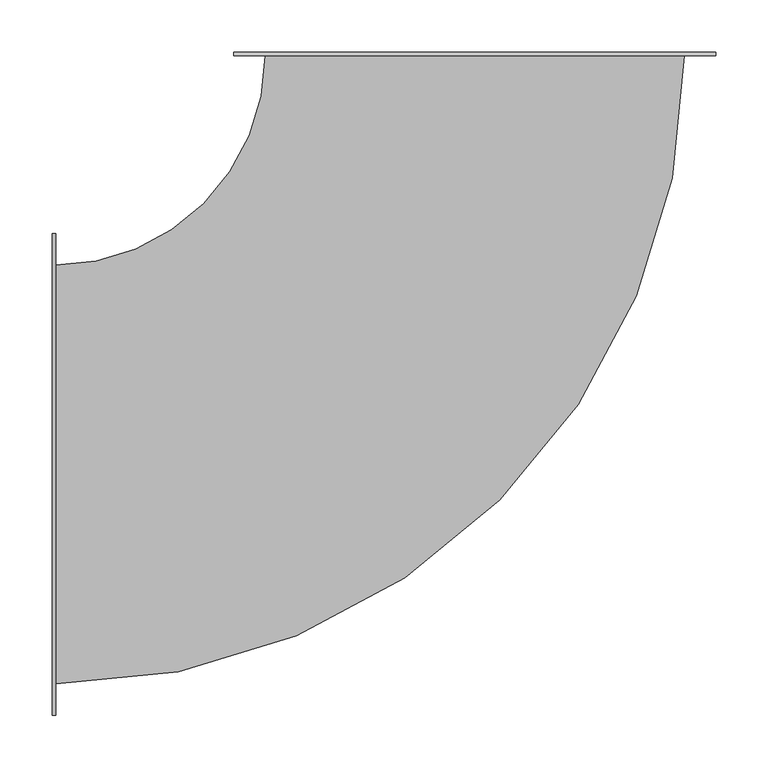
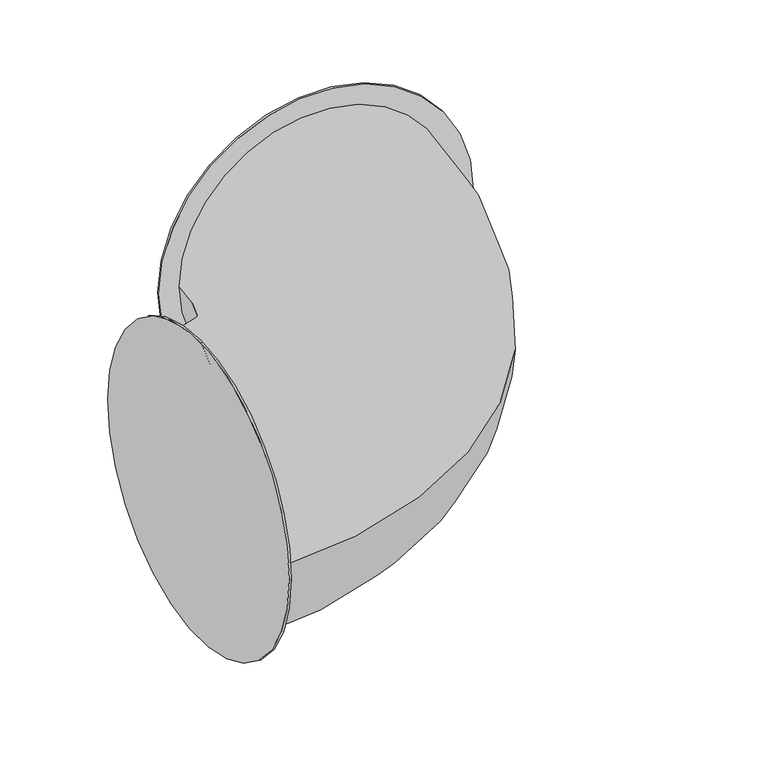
"""IFC4 building model written with IfcOpenShell, lengths in millimetres: duct fitting geometry, 圆形弯头 - 弧形 - 法兰 : 标准."""

from ifc_helpers import new_model, si_unit, point, frame, origin, place, context, project, spatial, circle_curve, ellipse_curve, trimmed, source, transform, mapped, element, save
from ifc_brep_helpers import plane_surface, cylinder_surface, revolved_surface, advanced_brep


def duct_fitting_1b995eb4(model_context):
    return source(origin(), model_context, "Body", "AdvancedBrep", [
        advanced_brep(
        [(-200.0, 400.0, 0.0), (-400.0, 200.0, 0.0), (-400.0, -200.0, 0.0), (200.0, 400.0, 0.0), (-403.0, -230.0, 0.0), (-403.0, 230.0, 0.0), (-400.0, -230.0, 0.0), (-400.0, 230.0, 0.0), (230.0, 400.0, 0.0), (-230.0, 400.0, 0.0), (230.0, 403.0, 0.0), (-230.0, 403.0, 0.0)],
        [
            (0, 1, circle_curve(frame((-400.0, 400.0, 0.0), z_axis=(0.0, 0.0, -1.0), x_axis=(0.0, -1.0, 0.0)), 200.0)),
            (1, 2, circle_curve(frame((-400.0, 0.0, 0.0), z_axis=(1.0, 0.0, 0.0), x_axis=(0.0, 1.0, 0.0)), 200.0)),
            (2, 3, circle_curve(frame((-400.0, 400.0, 0.0), z_axis=(0.0, 0.0, 1.0), x_axis=(0.0, -1.0, 0.0)), 600.0)),
            (3, 0, circle_curve(frame((0.0, 400.0, 0.0), z_axis=(0.0, -1.0, 0.0), x_axis=(-1.0, 0.0, 0.0)), 200.0)),
            (0, 3, circle_curve(frame((0.0, 400.0, 0.0), z_axis=(0.0, -1.0, 0.0), x_axis=(-1.0, 0.0, 0.0)), 200.0)),
            (2, 1, circle_curve(frame((-400.0, 0.0, 0.0), z_axis=(1.0, 0.0, 0.0), x_axis=(0.0, 1.0, 0.0)), 200.0)),
            (4, 5, circle_curve(frame((-403.0, 0.0, 0.0), z_axis=(-1.0, 0.0, 0.0), x_axis=(0.0, 1.0, 0.0)), 230.0)),
            (5, 4, circle_curve(frame((-403.0, 0.0, 0.0), z_axis=(-1.0, 0.0, 0.0), x_axis=(0.0, 1.0, 0.0)), 230.0)),
            (6, 7, circle_curve(frame((-400.0, 0.0, 0.0), z_axis=(1.0, 0.0, 0.0), x_axis=(0.0, 1.0, 0.0)), 230.0)),
            (7, 6, circle_curve(frame((-400.0, 0.0, 0.0), z_axis=(1.0, 0.0, 0.0), x_axis=(0.0, 1.0, 0.0)), 230.0)),
            (4, 6),
            (7, 5),
            (8, 9, circle_curve(frame((0.0, 400.0, 0.0), z_axis=(0.0, -1.0, 0.0), x_axis=(-1.0, 0.0, 0.0)), 230.0)),
            (9, 8, circle_curve(frame((0.0, 400.0, 0.0), z_axis=(0.0, -1.0, 0.0), x_axis=(-1.0, 0.0, 0.0)), 230.0)),
            (10, 11, circle_curve(frame((0.0, 403.0, 0.0), z_axis=(0.0, 1.0, 0.0), x_axis=(-1.0, 0.0, 0.0)), 230.0)),
            (11, 10, circle_curve(frame((0.0, 403.0, 0.0), z_axis=(0.0, 1.0, 0.0), x_axis=(-1.0, 0.0, 0.0)), 230.0)),
            (8, 10),
            (11, 9),
        ],
        [
            revolved_surface(trimmed(ellipse_curve(frame((-400.0, 0.0, 0.0), z_axis=(-1.0, 0.0, 0.0), x_axis=(0.0, 1.0, 0.0)), 200.0, 200.0), [point((-400.0, -200.0, 0.0))], [point((-400.0, 200.0, 0.0))], True, "CARTESIAN"), (-400.0, 400.0, 0.0), (0.0, 0.0, 1.0)),
            revolved_surface(trimmed(ellipse_curve(frame((-400.0, 0.0, 0.0), z_axis=(-1.0, 0.0, 0.0), x_axis=(0.0, 1.0, 0.0)), 200.0, 200.0), [point((-400.0, 200.0, 0.0))], [point((-400.0, -200.0, 0.0))], True, "CARTESIAN"), (-400.0, 400.0, 0.0), (0.0, 0.0, 1.0)),
            plane_surface(frame((-403.0, 0.0, 0.0), z_axis=(-1.0, 0.0, 0.0), x_axis=(0.0, 0.0, 1.0))),
            plane_surface(frame((-400.0, 0.0, 0.0), z_axis=(1.0, 0.0, 0.0), x_axis=(0.0, 0.0, 1.0))),
            cylinder_surface(frame((-403.0, 0.0, 0.0), z_axis=(-1.0, 0.0, 0.0), x_axis=(0.0, 1.0, 0.0)), 230.0),
            plane_surface(frame((0.0, 400.0, 0.0), z_axis=(0.0, -1.0, 0.0), x_axis=(0.0, 0.0, 1.0))),
            plane_surface(frame((0.0, 403.0, 0.0), z_axis=(0.0, 1.0, 0.0), x_axis=(0.0, 0.0, 1.0))),
            cylinder_surface(frame((0.0, 400.0, 0.0), z_axis=(0.0, -1.0, 0.0), x_axis=(-1.0, 0.0, 0.0)), 230.0),
        ],
        [
            (0, [[1, 2, 3, 4]]),
            (1, [[-1, 5, -3, 6]]),
            (2, [[7, 8]]),
            (3, [[9, 10], [-2, -6]]),
            (4, [[-7, 11, -10, 12]]),
            (4, [[-8, -12, -9, -11]]),
            (5, [[13, 14], [-4, -5]]),
            (6, [[15, 16]]),
            (7, [[-13, 17, -16, 18]]),
            (7, [[-14, -18, -15, -17]]),
        ],
    ),
    ])


if __name__ == "__main__":
    model = new_model("IFC4")
    model_context = context("Model", 3, world=origin())
    ifc_project = project(units=[si_unit("LENGTHUNIT", "METRE", prefix="MILLI")], contexts=[model_context])
    site = spatial("IfcSite", under=ifc_project)
    building = spatial("IfcBuilding", under=site)
    placement = place(None, origin())
    duct_fitting_shape = duct_fitting_1b995eb4(model_context)
    element("IfcDuctFitting", 1, ObjectType="圆形弯头 - 弧形 - 法兰 : 标准", at=placement, inside=building, context=model_context, shape_type="MappedRepresentation", body=[
        mapped(duct_fitting_shape, transform((0.0, 0.0, 0.0), x_axis=(1.0, 0.0, 0.0), y_axis=(0.0, 1.0, 0.0), z_axis=(0.0, 0.0, 1.0))),
    ])
    save(model, "model.ifc")
